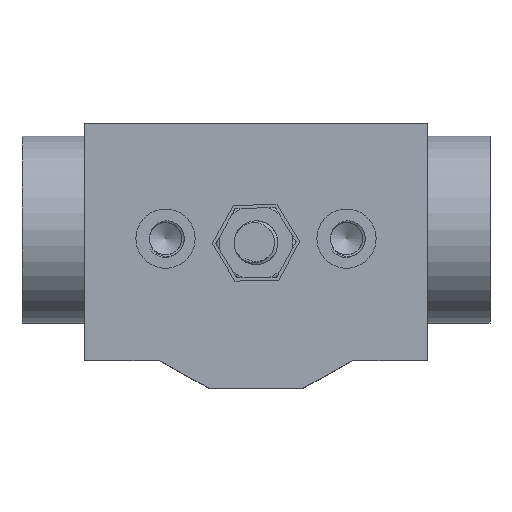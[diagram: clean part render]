
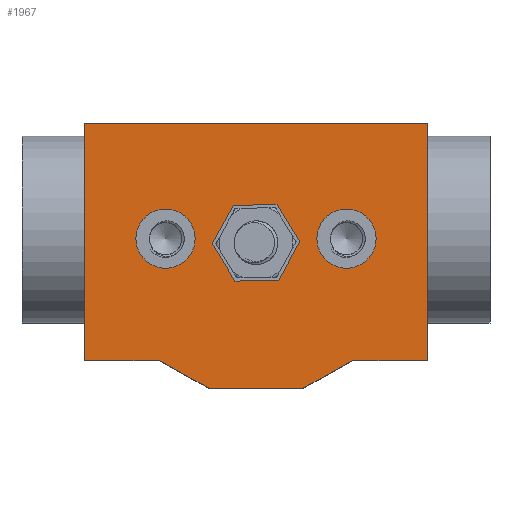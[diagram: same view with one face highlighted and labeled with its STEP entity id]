
A CAD part, top view. The second image highlights one B-rep face of the part: STEP entity #1967.
In plain terms, the highlighted planar face has unit normal (0, 0, 1).
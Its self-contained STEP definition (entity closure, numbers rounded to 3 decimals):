
#789=LINE('',#11326,#1380);
#809=LINE('',#11415,#1400);
#820=LINE('',#11464,#1411);
#823=LINE('',#11474,#1414);
#825=LINE('',#11484,#1416);
#827=LINE('',#11492,#1418);
#828=LINE('',#11494,#1419);
#829=LINE('',#11496,#1420);
#1380=VECTOR('',#9060,1.);
#1400=VECTOR('',#9130,1.);
#1411=VECTOR('',#9171,1.);
#1414=VECTOR('',#9180,1.);
#1416=VECTOR('',#9190,1.);
#1418=VECTOR('',#9198,1.);
#1419=VECTOR('',#9199,1.);
#1420=VECTOR('',#9200,1.);
#1967=ADVANCED_FACE('',(#2889,#2890,#2891),#2472,.T.);
#2472=PLANE('',#8258);
#2889=FACE_BOUND('',#3373,.T.);
#2890=FACE_BOUND('',#3374,.T.);
#2891=FACE_BOUND('',#3375,.T.);
#3373=EDGE_LOOP('',(#4207));
#3374=EDGE_LOOP('',(#4208,#4209,#4210,#4211,#4212,#4213,#4214,#4215));
#3375=EDGE_LOOP('',(#4216));
#4207=ORIENTED_EDGE('',*,*,#6964,.T.);
#4208=ORIENTED_EDGE('',*,*,#6926,.T.);
#4209=ORIENTED_EDGE('',*,*,#6956,.T.);
#4210=ORIENTED_EDGE('',*,*,#6965,.T.);
#4211=ORIENTED_EDGE('',*,*,#6966,.T.);
#4212=ORIENTED_EDGE('',*,*,#6967,.T.);
#4213=ORIENTED_EDGE('',*,*,#6961,.T.);
#4214=ORIENTED_EDGE('',*,*,#6882,.T.);
#4215=ORIENTED_EDGE('',*,*,#6951,.T.);
#4216=ORIENTED_EDGE('',*,*,#6968,.F.);
#6125=VERTEX_POINT('',#11325);
#6126=VERTEX_POINT('',#11327);
#6169=VERTEX_POINT('',#11414);
#6170=VERTEX_POINT('',#11416);
#6196=VERTEX_POINT('',#11473);
#6201=VERTEX_POINT('',#11485);
#6203=VERTEX_POINT('',#11491);
#6204=VERTEX_POINT('',#11493);
#6205=VERTEX_POINT('',#11495);
#6206=VERTEX_POINT('',#11498);
#6882=EDGE_CURVE('',#6126,#6125,#789,.T.);
#6926=EDGE_CURVE('',#6170,#6169,#809,.T.);
#6951=EDGE_CURVE('',#6125,#6170,#820,.T.);
#6956=EDGE_CURVE('',#6169,#6196,#823,.T.);
#6961=EDGE_CURVE('',#6201,#6126,#825,.T.);
#6964=EDGE_CURVE('',#6203,#6203,#7916,.T.);
#6965=EDGE_CURVE('',#6196,#6204,#827,.T.);
#6966=EDGE_CURVE('',#6204,#6205,#828,.T.);
#6967=EDGE_CURVE('',#6205,#6201,#829,.T.);
#6968=EDGE_CURVE('',#6206,#6206,#7917,.T.);
#7916=CIRCLE('',#8256,9.5);
#7917=CIRCLE('',#8257,9.5);
#8256=AXIS2_PLACEMENT_3D('',#11490,#9196,#9197);
#8257=AXIS2_PLACEMENT_3D('',#11497,#9201,#9202);
#8258=AXIS2_PLACEMENT_3D('',#11499,#9203,#9204);
#9060=DIRECTION('',(0.,1.,0.));
#9130=DIRECTION('',(0.,-1.,0.));
#9171=DIRECTION('',(-1.,0.,0.));
#9180=DIRECTION('',(1.,0.,0.));
#9190=DIRECTION('',(1.,0.,0.));
#9196=DIRECTION('',(0.,0.,-1.));
#9197=DIRECTION('',(-1.,0.,0.));
#9198=DIRECTION('',(0.872,-0.489,0.));
#9199=DIRECTION('',(1.,0.,0.));
#9200=DIRECTION('',(0.872,0.489,0.));
#9201=DIRECTION('',(0.,0.,1.));
#9202=DIRECTION('',(1.,0.,0.));
#9203=DIRECTION('',(0.,0.,1.));
#9204=DIRECTION('',(1.,0.,0.));
#11325=CARTESIAN_POINT('',(55.,42.5,70.));
#11326=CARTESIAN_POINT('',(55.,-33.544,70.));
#11327=CARTESIAN_POINT('',(55.,-33.544,70.));
#11414=CARTESIAN_POINT('',(-55.,-33.544,70.));
#11415=CARTESIAN_POINT('',(-55.,42.5,70.));
#11416=CARTESIAN_POINT('',(-55.,42.5,70.));
#11464=CARTESIAN_POINT('',(55.,42.5,70.));
#11473=CARTESIAN_POINT('',(-30.99,-33.544,70.));
#11474=CARTESIAN_POINT('',(-55.,-33.544,70.));
#11484=CARTESIAN_POINT('',(30.99,-33.544,70.));
#11485=CARTESIAN_POINT('',(30.99,-33.544,70.));
#11490=CARTESIAN_POINT('',(29.,5.5,70.));
#11491=CARTESIAN_POINT('',(19.5,5.5,70.));
#11492=CARTESIAN_POINT('',(-30.99,-33.544,70.));
#11493=CARTESIAN_POINT('',(-15.,-42.5,70.));
#11494=CARTESIAN_POINT('',(-15.,-42.5,70.));
#11495=CARTESIAN_POINT('',(15.,-42.5,70.));
#11496=CARTESIAN_POINT('',(15.,-42.5,70.));
#11497=CARTESIAN_POINT('',(-29.,5.5,70.));
#11498=CARTESIAN_POINT('',(-19.5,5.5,70.));
#11499=CARTESIAN_POINT('',(0.,0.,70.));
